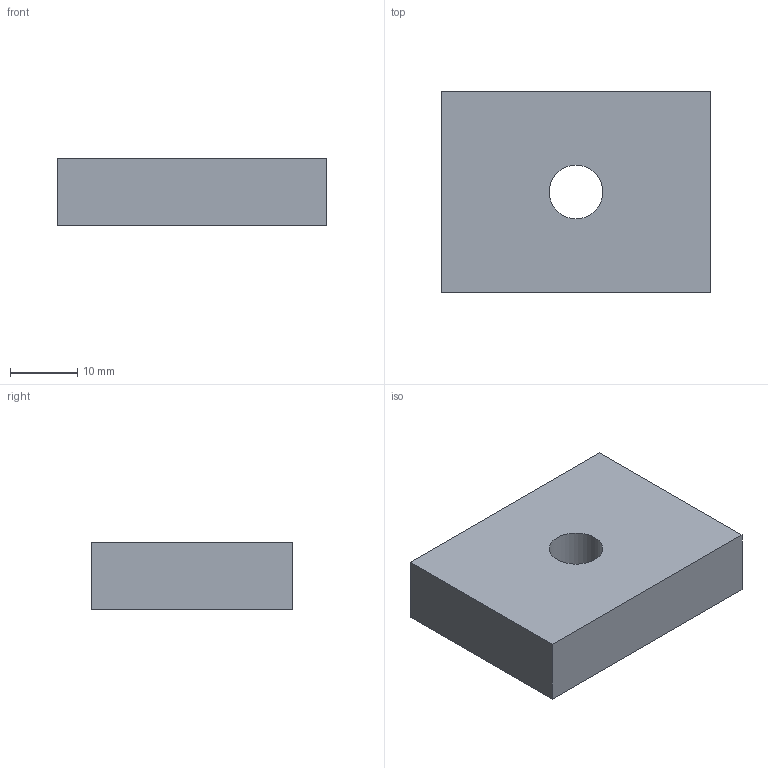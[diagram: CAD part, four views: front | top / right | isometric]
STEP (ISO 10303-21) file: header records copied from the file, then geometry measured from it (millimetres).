
FILE_DESCRIPTION(('pmix synthetic fixture: the baseline plate restated in inches; the same design, so the same ids and the same numbers'),'2;1');
FILE_NAME('plate_one_hole_inches.stp','2026-09-09T00:00:00',('pmix'),('pmix'),'pmix synthetic','pmix','');
FILE_SCHEMA(('AP242_MANAGED_MODEL_BASED_3D_ENGINEERING_MIM_LF { 1 0 10303 442 3 1 4 }'));
Length unit declared in the file: inch
Products named in the file (1): SYN-PLATE
Bounding box: 40 x 30 x 10 mm (x, y, z)
Volume: 11497.3 mm3; surface area: 3950.8 mm2
Topology: 1 solids, 1 shells, 7 faces, 15 edges, 10 vertices
Faces by surface type: plane 6, cylinder 1
Full cylindrical faces by diameter (mm): 8 x1
Entity records: 196 total; most frequent: CARTESIAN_POINT 31, DIRECTION 30, ORIENTED_EDGE 28, EDGE_CURVE 14, VECTOR 12, LINE 12, VERTEX_POINT 10, EDGE_LOOP 10
